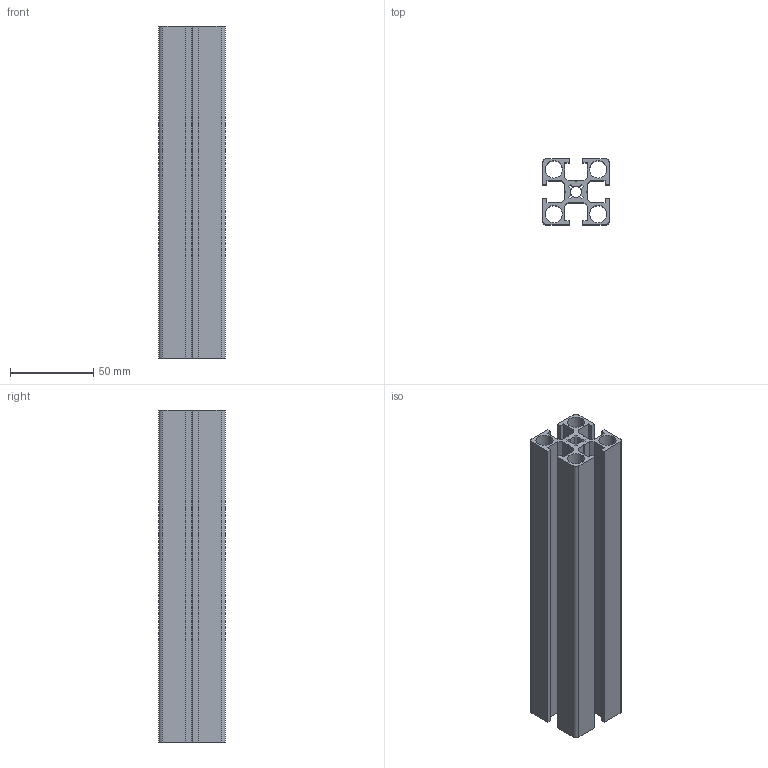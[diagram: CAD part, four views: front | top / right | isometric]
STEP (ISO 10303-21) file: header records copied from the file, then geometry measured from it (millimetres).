
FILE_DESCRIPTION (( 'STEP AP203' ), '1' );
FILE_NAME ('006508 REF 4040.STEP', '2015-12-01T11:54:24', ( '' ), ( '' ), 'SwSTEP 2.0', 'SolidWorks 2015', '' );
FILE_SCHEMA (( 'CONFIG_CONTROL_DESIGN' ));
Length unit declared in the file: millimetre
Products named in the file (1): 006508 REF 4040
Bounding box: 40.01 x 40.01 x 200 mm (x, y, z)
Volume: 110075.3 mm3; surface area: 94566.7 mm2
Topology: 1 solids, 1 shells, 93 faces, 273 edges, 182 vertices
Faces by surface type: plane 62, cylinder 31
Entity records: 3186 total; most frequent: CARTESIAN_POINT 549, ORIENTED_EDGE 546, DIRECTION 523, EDGE_CURVE 273, LINE 211, VECTOR 211, VERTEX_POINT 182, AXIS2_PLACEMENT_3D 156
